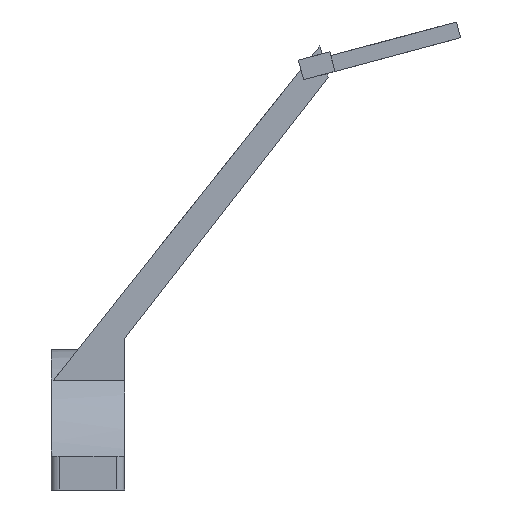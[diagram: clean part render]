
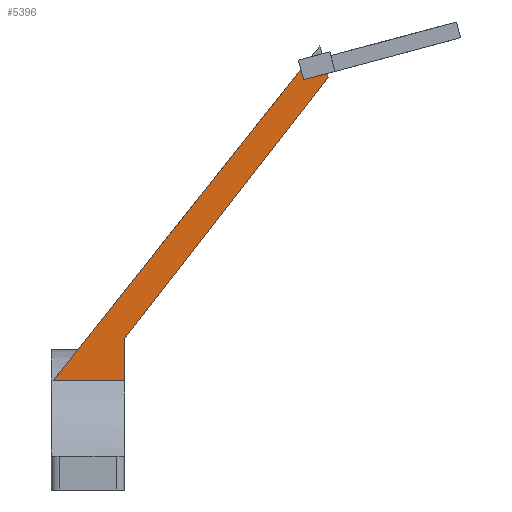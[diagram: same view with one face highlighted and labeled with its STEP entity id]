
A CAD part, front view. The second image highlights one B-rep face of the part: STEP entity #5396.
In plain terms, the highlighted planar face has unit normal (0, -1, 0).
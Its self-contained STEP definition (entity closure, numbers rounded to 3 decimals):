
#33 = CYLINDRICAL_SURFACE('',#34,35.3);
#34 = AXIS2_PLACEMENT_3D('',#35,#36,#37);
#35 = CARTESIAN_POINT('',(-35.,0.,0.));
#36 = DIRECTION('',(-1.,-0.,-0.));
#37 = DIRECTION('',(0.,1.,0.));
#307 = PLANE('',#308);
#308 = AXIS2_PLACEMENT_3D('',#309,#310,#311);
#309 = CARTESIAN_POINT('',(-17.,0.,0.)
  );
#310 = DIRECTION('',(1.,0.,0.));
#311 = DIRECTION('',(-0.,0.,1.));
#454 = VERTEX_POINT('',#455);
#455 = CARTESIAN_POINT('',(-34.518,-22.,27.606));
#473 = PLANE('',#474);
#474 = AXIS2_PLACEMENT_3D('',#475,#476,#477);
#475 = CARTESIAN_POINT('',(31.04,-18.,109.969));
#476 = DIRECTION('',(0.782,0.,-0.623));
#477 = DIRECTION('',(-0.623,0.,-0.782));
#485 = EDGE_CURVE('',#486,#454,#488,.T.);
#486 = VERTEX_POINT('',#487);
#487 = CARTESIAN_POINT('',(-17.,-22.,27.606));
#488 = SURFACE_CURVE('',#489,(#493,#499),.PCURVE_S1.);
#489 = LINE('',#490,#491);
#490 = CARTESIAN_POINT('',(-35.,-22.,27.606));
#491 = VECTOR('',#492,1.);
#492 = DIRECTION('',(-1.,-0.,-0.));
#493 = PCURVE('',#33,#494);
#494 = DEFINITIONAL_REPRESENTATION('',(#495),#498);
#495 = B_SPLINE_CURVE_WITH_KNOTS('',1,(#496,#497),.UNSPECIFIED.,.F.,.F.,
  (2,2),(-18.,0.),.PIECEWISE_BEZIER_KNOTS.);
#496 = CARTESIAN_POINT('',(-2.244,-18.));
#497 = CARTESIAN_POINT('',(-2.244,0.));
#498 = ( GEOMETRIC_REPRESENTATION_CONTEXT(2) 
PARAMETRIC_REPRESENTATION_CONTEXT() REPRESENTATION_CONTEXT('2D SPACE',''
  ) );
#499 = PCURVE('',#500,#505);
#500 = PLANE('',#501);
#501 = AXIS2_PLACEMENT_3D('',#502,#503,#504);
#502 = CARTESIAN_POINT('',(0.213,-22.,65.33));
#503 = DIRECTION('',(-0.,-1.,-0.));
#504 = DIRECTION('',(0.,0.,-1.));
#505 = DEFINITIONAL_REPRESENTATION('',(#506),#509);
#506 = B_SPLINE_CURVE_WITH_KNOTS('',1,(#507,#508),.UNSPECIFIED.,.F.,.F.,
  (2,2),(-18.,0.),.PIECEWISE_BEZIER_KNOTS.);
#507 = CARTESIAN_POINT('',(37.724,-17.213));
#508 = CARTESIAN_POINT('',(37.724,-35.213));
#509 = ( GEOMETRIC_REPRESENTATION_CONTEXT(2) 
PARAMETRIC_REPRESENTATION_CONTEXT() REPRESENTATION_CONTEXT('2D SPACE',''
  ) );
#1666 = PLANE('',#1667);
#1667 = AXIS2_PLACEMENT_3D('',#1668,#1669,#1670);
#1668 = CARTESIAN_POINT('',(46.375,0.,106.831));
#1669 = DIRECTION('',(0.259,0.,-0.966));
#1670 = DIRECTION('',(0.966,0.,0.259));
#1690 = PLANE('',#1691);
#1691 = AXIS2_PLACEMENT_3D('',#1692,#1693,#1694);
#1692 = CARTESIAN_POINT('',(26.021,-20.,105.519));
#1693 = DIRECTION('',(0.966,0.,0.259));
#1694 = DIRECTION('',(0.,1.,0.));
#2042 = VERTEX_POINT('',#2043);
#2043 = CARTESIAN_POINT('',(27.056,-22.,101.655));
#2064 = EDGE_CURVE('',#2065,#2042,#2067,.T.);
#2065 = VERTEX_POINT('',#2066);
#2066 = CARTESIAN_POINT('',(32.852,-22.,103.208));
#2067 = SURFACE_CURVE('',#2068,(#2072,#2078),.PCURVE_S1.);
#2068 = LINE('',#2069,#2070);
#2069 = CARTESIAN_POINT('',(19.652,-22.,99.671));
#2070 = VECTOR('',#2071,1.);
#2071 = DIRECTION('',(-0.966,0.,-0.259));
#2072 = PCURVE('',#1666,#2073);
#2073 = DEFINITIONAL_REPRESENTATION('',(#2074),#2077);
#2074 = B_SPLINE_CURVE_WITH_KNOTS('',1,(#2075,#2076),.UNSPECIFIED.,.F.,
  .F.,(2,2),(-13.933,-7.665),.PIECEWISE_BEZIER_KNOTS.);
#2075 = CARTESIAN_POINT('',(-13.732,22.));
#2076 = CARTESIAN_POINT('',(-20.,22.));
#2077 = ( GEOMETRIC_REPRESENTATION_CONTEXT(2) 
PARAMETRIC_REPRESENTATION_CONTEXT() REPRESENTATION_CONTEXT('2D SPACE',''
  ) );
#2078 = PCURVE('',#500,#2079);
#2079 = DEFINITIONAL_REPRESENTATION('',(#2080),#2083);
#2080 = B_SPLINE_CURVE_WITH_KNOTS('',1,(#2081,#2082),.UNSPECIFIED.,.F.,
  .F.,(2,2),(-13.933,-7.665),.PIECEWISE_BEZIER_KNOTS.);
#2081 = CARTESIAN_POINT('',(-37.947,32.897));
#2082 = CARTESIAN_POINT('',(-36.325,26.843));
#2083 = ( GEOMETRIC_REPRESENTATION_CONTEXT(2) 
PARAMETRIC_REPRESENTATION_CONTEXT() REPRESENTATION_CONTEXT('2D SPACE',''
  ) );
#2100 = PLANE('',#2101);
#2101 = AXIS2_PLACEMENT_3D('',#2102,#2103,#2104);
#2102 = CARTESIAN_POINT('',(33.11,-18.,102.242));
#2103 = DIRECTION('',(-0.966,-0.,-0.259));
#2104 = DIRECTION('',(-0.259,0.,0.966));
#5028 = VERTEX_POINT('',#5029);
#5029 = CARTESIAN_POINT('',(33.11,-22.,102.242));
#5043 = PLANE('',#5044);
#5044 = AXIS2_PLACEMENT_3D('',#5045,#5046,#5047);
#5045 = CARTESIAN_POINT('',(-17.,-18.,38.));
#5046 = DIRECTION('',(-0.788,0.,0.615));
#5047 = DIRECTION('',(0.615,0.,0.788));
#5055 = EDGE_CURVE('',#5028,#2065,#5056,.T.);
#5056 = SURFACE_CURVE('',#5057,(#5061,#5068),.PCURVE_S1.);
#5057 = LINE('',#5058,#5059);
#5058 = CARTESIAN_POINT('',(33.11,-22.,102.242));
#5059 = VECTOR('',#5060,1.);
#5060 = DIRECTION('',(-0.259,0.,0.966));
#5061 = PCURVE('',#2100,#5062);
#5062 = DEFINITIONAL_REPRESENTATION('',(#5063),#5067);
#5063 = LINE('',#5064,#5065);
#5064 = CARTESIAN_POINT('',(0.,-4.));
#5065 = VECTOR('',#5066,1.);
#5066 = DIRECTION('',(1.,0.));
#5067 = ( GEOMETRIC_REPRESENTATION_CONTEXT(2) 
PARAMETRIC_REPRESENTATION_CONTEXT() REPRESENTATION_CONTEXT('2D SPACE',''
  ) );
#5068 = PCURVE('',#500,#5069);
#5069 = DEFINITIONAL_REPRESENTATION('',(#5070),#5074);
#5070 = LINE('',#5071,#5072);
#5071 = CARTESIAN_POINT('',(-36.912,32.897));
#5072 = VECTOR('',#5073,1.);
#5073 = DIRECTION('',(-0.966,-0.259));
#5074 = ( GEOMETRIC_REPRESENTATION_CONTEXT(2) 
PARAMETRIC_REPRESENTATION_CONTEXT() REPRESENTATION_CONTEXT('2D SPACE',''
  ) );
#5083 = VERTEX_POINT('',#5084);
#5084 = CARTESIAN_POINT('',(-17.,-22.,38.));
#5105 = EDGE_CURVE('',#5083,#5028,#5106,.T.);
#5106 = SURFACE_CURVE('',#5107,(#5111,#5118),.PCURVE_S1.);
#5107 = LINE('',#5108,#5109);
#5108 = CARTESIAN_POINT('',(-17.,-22.,38.));
#5109 = VECTOR('',#5110,1.);
#5110 = DIRECTION('',(0.615,0.,0.788));
#5111 = PCURVE('',#5043,#5112);
#5112 = DEFINITIONAL_REPRESENTATION('',(#5113),#5117);
#5113 = LINE('',#5114,#5115);
#5114 = CARTESIAN_POINT('',(0.,-4.));
#5115 = VECTOR('',#5116,1.);
#5116 = DIRECTION('',(1.,0.));
#5117 = ( GEOMETRIC_REPRESENTATION_CONTEXT(2) 
PARAMETRIC_REPRESENTATION_CONTEXT() REPRESENTATION_CONTEXT('2D SPACE',''
  ) );
#5118 = PCURVE('',#500,#5119);
#5119 = DEFINITIONAL_REPRESENTATION('',(#5120),#5124);
#5120 = LINE('',#5121,#5122);
#5121 = CARTESIAN_POINT('',(27.33,-17.213));
#5122 = VECTOR('',#5123,1.);
#5123 = DIRECTION('',(-0.788,0.615));
#5124 = ( GEOMETRIC_REPRESENTATION_CONTEXT(2) 
PARAMETRIC_REPRESENTATION_CONTEXT() REPRESENTATION_CONTEXT('2D SPACE',''
  ) );
#5160 = EDGE_CURVE('',#5161,#2042,#5163,.T.);
#5161 = VERTEX_POINT('',#5162);
#5162 = CARTESIAN_POINT('',(26.393,-22.,104.131));
#5163 = SURFACE_CURVE('',#5164,(#5168,#5174),.PCURVE_S1.);
#5164 = LINE('',#5165,#5166);
#5165 = CARTESIAN_POINT('',(30.18,-22.,89.996));
#5166 = VECTOR('',#5167,1.);
#5167 = DIRECTION('',(0.259,0.,-0.966));
#5168 = PCURVE('',#1690,#5169);
#5169 = DEFINITIONAL_REPRESENTATION('',(#5170),#5173);
#5170 = B_SPLINE_CURVE_WITH_KNOTS('',1,(#5171,#5172),.UNSPECIFIED.,.F.,
  .F.,(2,2),(-17.07,-12.07),.PIECEWISE_BEZIER_KNOTS.);
#5171 = CARTESIAN_POINT('',(-2.,1.));
#5172 = CARTESIAN_POINT('',(-2.,-4.));
#5173 = ( GEOMETRIC_REPRESENTATION_CONTEXT(2) 
PARAMETRIC_REPRESENTATION_CONTEXT() REPRESENTATION_CONTEXT('2D SPACE',''
  ) );
#5174 = PCURVE('',#500,#5175);
#5175 = DEFINITIONAL_REPRESENTATION('',(#5176),#5179);
#5176 = B_SPLINE_CURVE_WITH_KNOTS('',1,(#5177,#5178),.UNSPECIFIED.,.F.,
  .F.,(2,2),(-17.07,-12.07),.PIECEWISE_BEZIER_KNOTS.);
#5177 = CARTESIAN_POINT('',(-41.155,25.549));
#5178 = CARTESIAN_POINT('',(-36.325,26.843));
#5179 = ( GEOMETRIC_REPRESENTATION_CONTEXT(2) 
PARAMETRIC_REPRESENTATION_CONTEXT() REPRESENTATION_CONTEXT('2D SPACE',''
  ) );
#5374 = EDGE_CURVE('',#5161,#454,#5375,.T.);
#5375 = SURFACE_CURVE('',#5376,(#5380,#5387),.PCURVE_S1.);
#5376 = LINE('',#5377,#5378);
#5377 = CARTESIAN_POINT('',(31.04,-22.,109.969));
#5378 = VECTOR('',#5379,1.);
#5379 = DIRECTION('',(-0.623,0.,-0.782));
#5380 = PCURVE('',#473,#5381);
#5381 = DEFINITIONAL_REPRESENTATION('',(#5382),#5386);
#5382 = LINE('',#5383,#5384);
#5383 = CARTESIAN_POINT('',(-0.,-4.));
#5384 = VECTOR('',#5385,1.);
#5385 = DIRECTION('',(1.,0.));
#5386 = ( GEOMETRIC_REPRESENTATION_CONTEXT(2) 
PARAMETRIC_REPRESENTATION_CONTEXT() REPRESENTATION_CONTEXT('2D SPACE',''
  ) );
#5387 = PCURVE('',#500,#5388);
#5388 = DEFINITIONAL_REPRESENTATION('',(#5389),#5393);
#5389 = LINE('',#5390,#5391);
#5390 = CARTESIAN_POINT('',(-44.639,30.826));
#5391 = VECTOR('',#5392,1.);
#5392 = DIRECTION('',(0.782,-0.623));
#5393 = ( GEOMETRIC_REPRESENTATION_CONTEXT(2) 
PARAMETRIC_REPRESENTATION_CONTEXT() REPRESENTATION_CONTEXT('2D SPACE',''
  ) );
#5396 = ADVANCED_FACE('',(#5397),#500,.T.);
#5397 = FACE_BOUND('',#5398,.T.);
#5398 = EDGE_LOOP('',(#5399,#5400,#5401,#5422,#5423,#5424,#5425));
#5399 = ORIENTED_EDGE('',*,*,#5374,.T.);
#5400 = ORIENTED_EDGE('',*,*,#485,.F.);
#5401 = ORIENTED_EDGE('',*,*,#5402,.T.);
#5402 = EDGE_CURVE('',#486,#5083,#5403,.T.);
#5403 = SURFACE_CURVE('',#5404,(#5408,#5415),.PCURVE_S1.);
#5404 = LINE('',#5405,#5406);
#5405 = CARTESIAN_POINT('',(-17.,-22.,27.));
#5406 = VECTOR('',#5407,1.);
#5407 = DIRECTION('',(0.,0.,1.));
#5408 = PCURVE('',#500,#5409);
#5409 = DEFINITIONAL_REPRESENTATION('',(#5410),#5414);
#5410 = LINE('',#5411,#5412);
#5411 = CARTESIAN_POINT('',(38.33,-17.213));
#5412 = VECTOR('',#5413,1.);
#5413 = DIRECTION('',(-1.,0.));
#5414 = ( GEOMETRIC_REPRESENTATION_CONTEXT(2) 
PARAMETRIC_REPRESENTATION_CONTEXT() REPRESENTATION_CONTEXT('2D SPACE',''
  ) );
#5415 = PCURVE('',#307,#5416);
#5416 = DEFINITIONAL_REPRESENTATION('',(#5417),#5421);
#5417 = LINE('',#5418,#5419);
#5418 = CARTESIAN_POINT('',(27.,22.));
#5419 = VECTOR('',#5420,1.);
#5420 = DIRECTION('',(1.,0.));
#5421 = ( GEOMETRIC_REPRESENTATION_CONTEXT(2) 
PARAMETRIC_REPRESENTATION_CONTEXT() REPRESENTATION_CONTEXT('2D SPACE',''
  ) );
#5422 = ORIENTED_EDGE('',*,*,#5105,.T.);
#5423 = ORIENTED_EDGE('',*,*,#5055,.T.);
#5424 = ORIENTED_EDGE('',*,*,#2064,.T.);
#5425 = ORIENTED_EDGE('',*,*,#5160,.F.);
